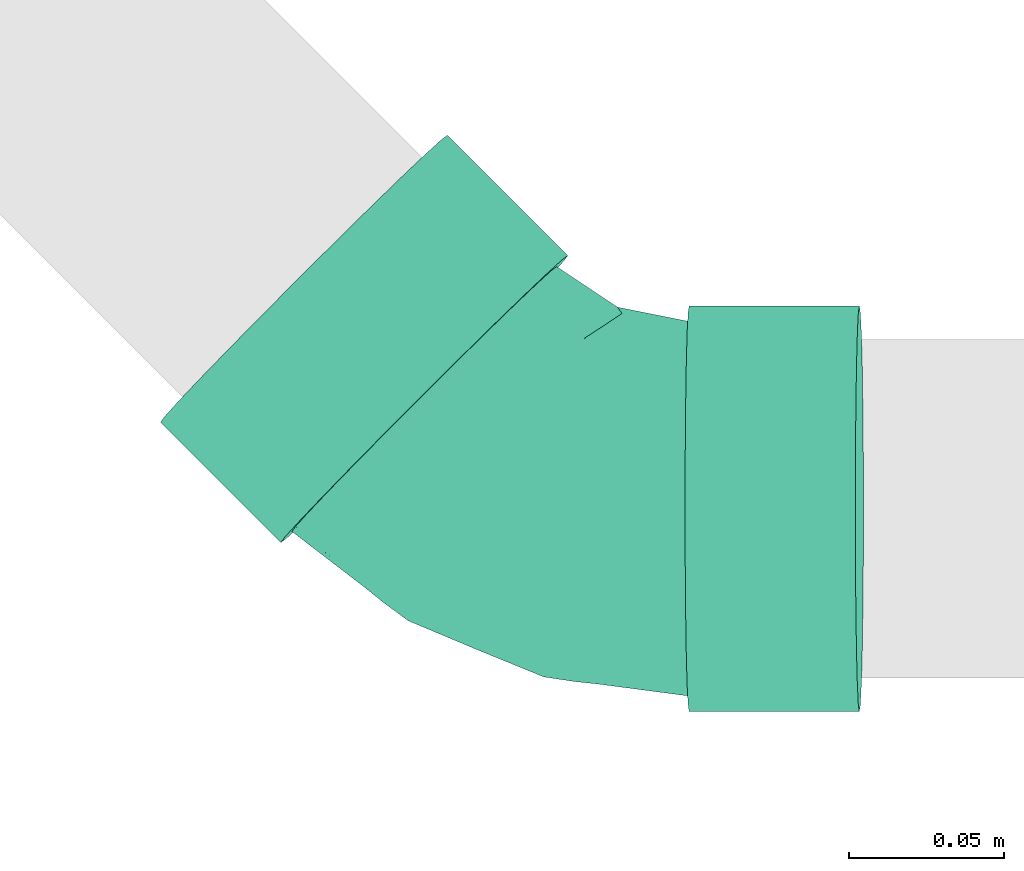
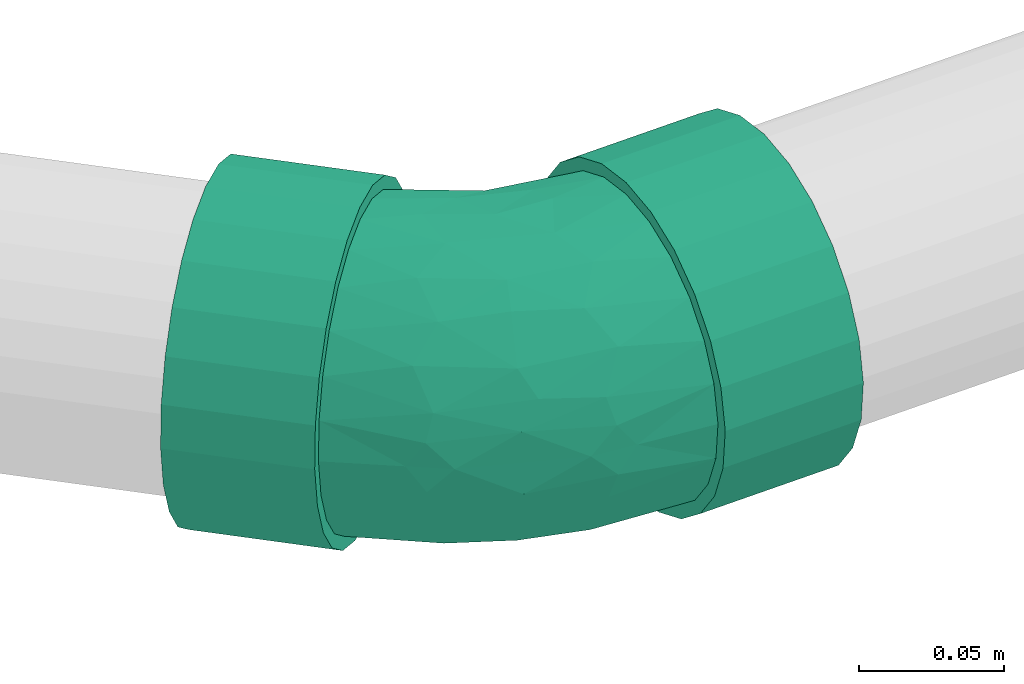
# One storey, part 60 of 83: 1 flow fitting.
"""IFC2X3 building model written with IfcOpenShell, lengths in millimetres."""

from ifc_helpers import new_model, entity, si_unit, converted_unit, derived_unit, direction, frame, origin_with_axes, place, context, subcontext, project, spatial, open_shell, surface_model, source, transform, mapped, type_object, element, save


model = new_model("IFC2X3")

# Units and contexts
model_context = context("Model", 3, precision=0.01, world=frame((0.0, 4.29681676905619e-09, 0.0)), true_north=direction((4.01073788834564e-13, 1.0)))
plan_context = context("Plan", 3, precision=0.01, world=frame((0.0, 4.29681676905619e-09, 0.0)), true_north=direction((4.01073788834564e-13, 1.0)))
body_context = subcontext(model_context, "Body", "Model", "MODEL_VIEW")
ifc_project = project(units=[converted_unit("PLANEANGLEUNIT", "DEGREE", entity("IfcPositiveLengthMeasure", 0.0174532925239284), si_unit("PLANEANGLEUNIT", "RADIAN"), dimensions=[0, 0, 0, 0, 0, 0, 0]), si_unit("AREAUNIT", "SQUARE_METRE"), si_unit("LENGTHUNIT", "METRE", prefix="MILLI"), si_unit("MASSUNIT", "GRAM", prefix="KILO"), si_unit("POWERUNIT", "WATT"), si_unit("PRESSUREUNIT", "PASCAL"), si_unit("FORCEUNIT", "NEWTON", prefix="KILO"), si_unit("ELECTRICVOLTAGEUNIT", "VOLT"), si_unit("ELECTRICCURRENTUNIT", "AMPERE"), si_unit("THERMODYNAMICTEMPERATUREUNIT", "DEGREE_CELSIUS"), si_unit("TIMEUNIT", "SECOND"), si_unit("VOLUMEUNIT", "CUBIC_METRE"), derived_unit("LINEARVELOCITYUNIT", [(si_unit("LENGTHUNIT", "METRE"), 1), (si_unit("TIMEUNIT", "SECOND"), -1)]), derived_unit("VOLUMETRICFLOWRATEUNIT", [(si_unit("VOLUMEUNIT", "CUBIC_METRE"), 1), (si_unit("TIMEUNIT", "SECOND"), -1)]), derived_unit("THERMALTRANSMITTANCEUNIT", [(si_unit("POWERUNIT", "WATT"), 1), (si_unit("THERMODYNAMICTEMPERATUREUNIT", "KELVIN"), -1), (si_unit("AREAUNIT", "SQUARE_METRE"), -1)]), derived_unit("SOUNDPRESSUREUNIT", [(si_unit("PRESSUREUNIT", "PASCAL"), 1)])], contexts=[model_context, plan_context])

# Site, building, storey
site_placement = place(None, frame((0.0, -4.29681676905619e-09, 0.0), z_axis=(0.0, 0.0, 1.0), x_axis=(1.0, 0.0, 0.0)))
site = spatial("IfcSite", under=ifc_project, at=site_placement, Name="ENGM", CompositionType="ELEMENT")
building_placement = place(site_placement, frame((0.0, 4.29681676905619e-09, 0.0), z_axis=(0.0, 0.0, 1.0), x_axis=(1.0, 0.0, 0.0)))
building = spatial("IfcBuilding", under=site, at=building_placement, Name="TI", CompositionType="ELEMENT")
storey_placement = place(building_placement, frame((0.0, 0.0, 204000.0), z_axis=(0.0, 0.0, 1.0), x_axis=(1.0, 0.0, 0.0)))
storey = spatial("IfcBuildingStorey", under=building, at=storey_placement, Name="Nivå D", CompositionType="ELEMENT", Elevation=204000.0)

# Flow fitting
pipe_fitting_type = type_object("IfcPipeFittingType", Name="magi_sewer_bend_001", PredefinedType="BEND")
shared_shape = source(origin_with_axes(), body_context, "Body", "SurfaceModel", [
    surface_model("IfcShellBasedSurfaceModel", [(-105.1081, -16.95265, -63.26814), (-105.1081, -32.75, -56.72466), (-105.1081, -46.3155, -46.3155), (-105.1081, -63.26814, -16.95265), (-105.1081, 56.72466, -32.75), (-105.1081, -56.72466, -32.75), (-105.1081, -65.5, 0.0), (-105.1081, 16.95265, -63.26814), (-105.1081, 0.0, -65.5), (-105.1081, 32.75, -56.72466), (-105.1081, 46.3155, -46.3155), (-105.1081, 63.26814, -16.95265), (-105.1081, -63.26814, 16.95265), (-105.1081, -56.72466, 32.75), (-105.1081, -46.3155, 46.3155), (-105.1081, 63.26814, 16.95265), (-105.1081, -16.95265, 63.26814), (-105.1081, 0.0, 65.5), (-105.1081, -32.75, 56.72466), (-105.1081, 46.3155, 46.3155), (-105.1081, 56.72466, 32.75), (-105.1081, 65.5, 0.0), (-105.1081, 16.95265, 63.26814), (-105.1081, 32.75, 56.72466), (-50.1081, -16.95265, 63.26814), (-50.1081, 16.95265, 63.26814), (-50.1081, 0.0, 65.5), (-50.1081, -46.3155, 46.3155), (-50.1081, -32.75, 56.72466), (-50.1081, -56.72466, 32.75), (-50.1081, -63.26814, 16.95265), (-50.1081, 46.3155, 46.3155), (-50.1081, 32.75, 56.72466), (-50.1081, 63.26814, 16.95265), (-50.1081, 56.72466, 32.75), (-50.1081, 63.26814, -16.95265), (-50.1081, 65.5, 0.0), (-50.1081, -63.26814, -16.95265), (-50.1081, 32.75, -56.72466), (-50.1081, -65.5, 0.0), (-50.1081, -16.95265, -63.26814), (-50.1081, -56.72466, -32.75), (-50.1081, -46.3155, -46.3155), (-50.1081, -32.75, -56.72466), (-50.1081, 0.0, -65.5), (-50.1081, 46.3155, -46.3155), (-50.1081, 56.72466, -32.75), (-50.1081, 16.95265, -63.26814), (29.60504, 119.05508, 16.95265), (34.23121, 114.42738, 32.75), (41.59038, 107.06577, 46.3155), (51.18105, 97.47192, 56.72466), (86.3203, 62.32102, -63.26814), (34.23121, 114.42738, -32.75), (62.34961, 86.29966, 63.26814), (86.3203, 62.32102, 63.26814), (28.02714, 120.63351, 0.0), (29.60504, 119.05508, -16.95265), (51.18105, 97.47192, -56.72466), (41.59038, 107.06577, -46.3155), (74.33496, 74.31034, -65.5), (62.34961, 86.29966, -63.26814), (74.33496, 74.31034, 65.5), (97.48887, 51.14876, 56.72466), (107.07954, 41.55492, 46.3155), (120.64278, 27.98717, 0.0), (114.43871, 34.1933, 32.75), (119.06488, 29.5656, 16.95265), (107.07954, 41.55492, -46.3155), (97.48887, 51.14876, -56.72466), (114.43871, 34.1933, -32.75), (119.06488, 29.5656, -16.95265), (81.74546, -10.89726, 0.0), (80.16757, -9.31883, 16.95265), (75.5414, -4.69113, 32.75), (68.18222, 2.67049, 46.3155), (58.59156, 12.26433, 56.72466), (47.42299, 23.43659, 63.26814), (75.5414, -4.69113, -32.75), (23.4523, 47.41522, 63.26814), (47.42299, 23.43659, -63.26814), (68.18222, 2.67049, -46.3155), (80.16757, -9.31883, -16.95265), (58.59156, 12.26433, -56.72466), (35.43765, 35.42591, -65.5), (12.28374, 58.58749, 56.72466), (12.28374, 58.58749, -56.72466), (2.69307, 68.18134, 46.3155), (-4.6661, 75.54295, 32.75), (-9.29227, 80.17065, 16.95265), (-4.6661, 75.54295, -32.75), (2.69307, 68.18134, -46.3155), (23.4523, 47.41522, -63.26814), (-9.29227, 80.17065, -16.95265), (-10.87018, 81.74907, 0.0), (35.43765, 35.42591, 65.5), (-50.1081, 15.65855, -58.43851), (-50.1081, 0.0, -60.5), (-50.1081, 58.43851, -15.65855), (-50.1081, 30.25, -52.39454), (-50.1081, 52.39454, -30.25), (-50.1081, 42.77996, -42.77996), (-50.1081, -58.43851, -15.65855), (-50.1081, -42.77996, -42.77996), (-50.1081, -30.25, -52.39454), (-50.1081, -15.65855, -58.43851), (-50.1081, -52.39454, -30.25), (-50.1081, -60.5, 0.0), (-50.1081, -58.43851, 15.65855), (-50.1081, 58.43851, 15.65855), (-50.1081, -52.39454, 30.25), (-50.1081, 52.39454, 30.25), (-50.1081, 42.77996, 42.77996), (-50.1081, 30.25, 52.39454), (-50.1081, -42.77996, 42.77996), (-50.1081, 15.65855, 58.43851), (-50.1081, 0.0, 60.5), (-50.1081, -15.65855, 58.43851), (-50.1081, -30.25, 52.39454), (-50.1081, 60.5, 0.0), (-5.87778, 76.75502, -15.65855), (35.43765, 35.42591, -60.5), (24.36721, 46.50001, -58.43851), (14.05121, 56.81943, -52.39454), (5.19266, 65.68092, -42.77996), (-1.60475, 72.48058, -30.25), (78.21052, -7.36114, 0.0), (56.82408, 14.03239, -52.39454), (76.75307, -5.9032, -15.65855), (65.68264, 5.1709, -42.77996), (46.50808, 24.35181, -58.43851), (72.48004, -1.62876, -30.25), (-1.60475, 72.48058, 30.25), (-7.33523, 78.21296, 0.0), (-5.87778, 76.75502, 15.65855), (14.05121, 56.81943, 52.39454), (72.48004, -1.62876, 30.25), (5.19266, 65.68092, 42.77996), (35.43765, 35.42591, 60.5), (24.36721, 46.50001, 58.43851), (65.68264, 5.1709, 42.77996), (76.75307, -5.9032, 15.65855), (46.50808, 24.35181, 58.43851), (56.82408, 14.03239, 52.39454), (15.40727, -37.20516, 33.71616), (-13.37763, -34.19376, 46.68461), (-19.52539, -46.27097, 35.42542), (-20.20232, -56.56367, 0.0), (-3.14212, -54.31813, 0.0), (-12.90624, -55.73838, 10.33181), (46.52192, -18.91968, 35.42542), (-23.96734, -22.18542, 55.29418), (6.21198, -15.00057, 54.53221), (1.7999, 36.36757, 56.46783), (10.93464, 28.63174, 59.6196), (-18.04815, -5.82533, 59.69858), (-5.75196, 13.88971, 60.2873), (-30.30698, 8.38321, 60.13278), (-17.1803, 41.48663, 49.39195), (-26.66913, 50.73825, 38.17926), (32.63514, 1.2546, 55.29418), (-23.23617, 25.17565, 56.5588), (23.34094, -39.60417, 23.84545), (-10.84174, -52.34265, 21.01086), (18.78146, -45.35308, 13.15226), (-24.9167, 60.16833, 24.8553), (48.53406, -30.29493, 10.33181), (54.2775, -25.72035, 0.0), (-24.22946, 64.82374, 12.71138), (44.67325, -29.35298, 21.01085), (16.88253, 8.64005, 59.69858), (33.63561, -14.7248, 46.68461), (-26.96038, 65.10337, 0.0), (10.15312, -24.51753, 48.24811), (18.74121, -45.25588, 0.0), (40.62454, -36.19363, 0.0), (-18.04815, -5.82533, -59.69858), (-12.90624, -55.73838, -10.33181), (18.78146, -45.35308, -13.15226), (16.88253, 8.64005, -59.69858), (-26.98443, 24.44751, -56.46783), (-27.97558, 12.51837, -59.6196), (-17.01038, 54.7381, -38.17926), (33.63561, -14.7248, -46.68461), (-24.9167, 60.16833, -24.8553), (44.67325, -29.35298, -21.01085), (-28.69406, 62.97487, -12.71138), (-1.36575, 34.23256, -56.5588), (-10.84174, -52.34265, -21.01085), (-17.1803, 41.48663, -49.39196), (-19.52539, -46.27097, -35.42542), (-13.37763, -34.19376, -46.68461), (10.15312, -24.51753, -48.24811), (15.40727, -37.20516, -33.71616), (-23.96734, -22.18542, -55.29418), (32.63514, 1.2546, -55.29418), (6.21198, -15.00057, -54.53221), (48.53406, -30.29493, -10.33181), (15.50697, 27.35553, -60.13278), (11.49247, -44.51083, -23.84545), (46.52192, -18.91968, -35.42542), (-5.75196, 13.88971, -60.2873)], [open_shell([[[0, 1, 2]], [[0, 2, 3]], [[0, 3, 4]], [[3, 2, 5]], [[4, 3, 6]], [[0, 7, 8]], [[0, 9, 7]], [[10, 9, 0]], [[0, 4, 10]], [[6, 11, 4]], [[6, 12, 11]], [[12, 13, 14]], [[11, 14, 15]], [[16, 17, 14]], [[16, 14, 18]], [[15, 14, 17]], [[15, 19, 20]], [[21, 11, 15]], [[19, 22, 23]], [[22, 19, 15]], [[17, 22, 15]], [[11, 12, 14]], [[24, 25, 26]], [[27, 24, 28]], [[27, 29, 30]], [[24, 27, 25]], [[30, 25, 27]], [[25, 31, 32]], [[31, 25, 33]], [[31, 33, 34]], [[25, 30, 33]], [[33, 35, 36]], [[33, 30, 35]], [[37, 38, 39]], [[40, 37, 41]], [[42, 43, 40]], [[42, 40, 41]], [[44, 37, 40]], [[39, 45, 46]], [[46, 35, 39]], [[38, 44, 47]], [[38, 45, 39]], [[38, 37, 44]], [[39, 35, 30]], [[35, 11, 36]], [[46, 4, 35]], [[47, 44, 7]], [[45, 10, 46]], [[35, 4, 11]], [[11, 21, 36]], [[9, 38, 7]], [[9, 10, 45]], [[38, 47, 7]], [[10, 4, 46]], [[45, 38, 9]], [[44, 8, 7]], [[0, 40, 43]], [[42, 1, 43]], [[5, 41, 37]], [[42, 41, 2]], [[3, 37, 39]], [[40, 0, 8]], [[43, 1, 0]], [[42, 2, 1]], [[41, 5, 2]], [[3, 5, 37]], [[39, 6, 3]], [[40, 8, 44]], [[30, 12, 39]], [[29, 13, 30]], [[28, 18, 27]], [[27, 14, 29]], [[30, 13, 12]], [[12, 6, 39]], [[17, 16, 24]], [[16, 18, 28]], [[14, 27, 18]], [[14, 13, 29]], [[24, 16, 28]], [[24, 26, 17]], [[22, 25, 32]], [[31, 23, 32]], [[20, 34, 33]], [[31, 34, 19]], [[15, 33, 36]], [[25, 22, 17]], [[32, 23, 22]], [[31, 19, 23]], [[34, 20, 19]], [[15, 20, 33]], [[36, 21, 15]], [[25, 17, 26]], [[48, 49, 50]], [[48, 50, 51]], [[52, 53, 48]], [[54, 48, 51]], [[48, 54, 55]], [[56, 53, 57]], [[56, 48, 53]], [[53, 58, 59]], [[58, 53, 52]], [[60, 61, 58]], [[54, 62, 55]], [[55, 63, 64]], [[55, 64, 65]], [[66, 67, 65]], [[66, 65, 64]], [[55, 65, 52]], [[52, 68, 69]], [[60, 58, 52]], [[52, 70, 68]], [[52, 65, 70]], [[71, 70, 65]], [[52, 48, 55]], [[72, 73, 74]], [[72, 74, 75]], [[75, 76, 77]], [[72, 75, 78]], [[79, 80, 75]], [[78, 80, 81]], [[78, 82, 72]], [[81, 80, 83]], [[78, 75, 80]], [[79, 84, 80]], [[79, 75, 77]], [[84, 79, 85]], [[84, 85, 86]], [[87, 88, 89]], [[85, 87, 86]], [[87, 89, 86]], [[86, 90, 91]], [[92, 84, 86]], [[89, 93, 90]], [[90, 86, 89]], [[93, 89, 94]], [[79, 77, 95]], [[92, 61, 84]], [[86, 58, 92]], [[93, 94, 57]], [[91, 59, 86]], [[92, 58, 61]], [[61, 60, 84]], [[53, 90, 57]], [[53, 59, 91]], [[90, 93, 57]], [[59, 58, 86]], [[91, 90, 53]], [[94, 56, 57]], [[48, 89, 88]], [[87, 49, 88]], [[51, 85, 79]], [[87, 85, 50]], [[54, 79, 95]], [[89, 48, 56]], [[88, 49, 48]], [[87, 50, 49]], [[85, 51, 50]], [[54, 51, 79]], [[95, 62, 54]], [[89, 56, 94]], [[77, 55, 95]], [[76, 63, 77]], [[74, 66, 75]], [[75, 64, 76]], [[77, 63, 55]], [[55, 62, 95]], [[65, 67, 73]], [[67, 66, 74]], [[64, 75, 66]], [[64, 63, 76]], [[73, 67, 74]], [[73, 72, 65]], [[71, 82, 78]], [[81, 70, 78]], [[69, 83, 80]], [[81, 83, 68]], [[52, 80, 84]], [[82, 71, 65]], [[78, 70, 71]], [[81, 68, 70]], [[83, 69, 68]], [[52, 69, 80]], [[84, 60, 52]], [[82, 65, 72]], [[96, 97, 98]], [[99, 96, 98]], [[98, 100, 101]], [[99, 98, 101]], [[102, 98, 97]], [[103, 102, 104]], [[105, 104, 102]], [[106, 102, 103]], [[102, 97, 105]], [[107, 108, 102]], [[109, 98, 102]], [[109, 102, 110]], [[111, 109, 112]], [[113, 109, 114]], [[112, 109, 113]], [[115, 113, 116]], [[110, 114, 109]], [[110, 102, 108]], [[117, 116, 118]], [[114, 118, 116]], [[113, 114, 116]], [[109, 119, 98]], [[120, 121, 122]], [[120, 122, 123]], [[124, 125, 120]], [[124, 120, 123]], [[121, 120, 126]], [[127, 128, 129]], [[128, 127, 130]], [[129, 128, 131]], [[130, 121, 128]], [[121, 126, 128]], [[120, 132, 126]], [[133, 134, 132]], [[132, 135, 126]], [[135, 136, 126]], [[135, 132, 137]], [[138, 135, 139]], [[135, 140, 136]], [[141, 126, 136]], [[140, 142, 143]], [[142, 140, 138]], [[138, 140, 135]], [[133, 132, 120]], [[144, 145, 146]], [[147, 148, 149]], [[118, 114, 145]], [[136, 140, 150]], [[151, 145, 152]], [[146, 145, 114]], [[139, 153, 154]], [[117, 118, 151]], [[155, 156, 157]], [[116, 117, 155]], [[112, 158, 159]], [[143, 142, 160]], [[157, 115, 116]], [[113, 161, 158]], [[108, 147, 149]], [[135, 137, 158]], [[162, 163, 164]], [[158, 112, 113]], [[114, 110, 146]], [[111, 159, 165]], [[109, 111, 165]], [[141, 166, 167]], [[168, 119, 109]], [[169, 162, 164]], [[163, 149, 164]], [[113, 115, 161]], [[138, 154, 170]], [[140, 143, 171]], [[132, 134, 165]], [[170, 142, 138]], [[144, 146, 163]], [[140, 171, 150]], [[156, 154, 153]], [[171, 143, 160]], [[110, 163, 146]], [[166, 141, 169]], [[144, 150, 171]], [[157, 161, 115]], [[144, 162, 150]], [[109, 165, 168]], [[110, 108, 163]], [[172, 168, 133]], [[145, 173, 152]], [[134, 168, 165]], [[152, 170, 155]], [[132, 165, 159]], [[152, 160, 170]], [[132, 159, 137]], [[156, 155, 170]], [[139, 135, 153]], [[153, 158, 161]], [[151, 155, 117]], [[111, 112, 159]], [[169, 141, 136]], [[169, 136, 150]], [[173, 144, 171]], [[137, 159, 158]], [[158, 153, 135]], [[156, 153, 161]], [[145, 151, 118]], [[155, 151, 152]], [[170, 160, 142]], [[171, 160, 152]], [[108, 107, 147]], [[164, 148, 174]], [[108, 149, 163]], [[148, 164, 149]], [[166, 164, 175]], [[167, 166, 175]], [[167, 126, 141]], [[164, 166, 169]], [[170, 154, 156]], [[138, 139, 154]], [[155, 157, 116]], [[161, 157, 156]], [[144, 173, 145]], [[171, 152, 173]], [[133, 168, 134]], [[168, 172, 119]], [[150, 162, 169]], [[163, 162, 144]], [[175, 164, 174]], [[105, 97, 176]], [[148, 177, 178]], [[121, 130, 179]], [[180, 181, 96]], [[100, 182, 101]], [[127, 129, 183]], [[184, 182, 100]], [[131, 128, 185]], [[98, 186, 184]], [[123, 122, 187]], [[102, 177, 147]], [[99, 180, 96]], [[177, 102, 188]], [[124, 189, 182]], [[188, 106, 190]], [[190, 103, 191]], [[103, 104, 191]], [[192, 193, 191]], [[102, 106, 188]], [[103, 190, 106]], [[194, 104, 105]], [[195, 179, 130]], [[120, 125, 184]], [[196, 194, 176]], [[119, 172, 186]], [[193, 190, 191]], [[133, 120, 186]], [[196, 176, 179]], [[124, 123, 189]], [[184, 100, 98]], [[125, 182, 184]], [[194, 191, 104]], [[187, 189, 123]], [[181, 176, 97]], [[189, 187, 180]], [[101, 189, 99]], [[128, 167, 197]], [[198, 122, 121]], [[195, 130, 127]], [[199, 185, 178]], [[129, 200, 183]], [[196, 195, 183]], [[129, 131, 200]], [[201, 198, 179]], [[200, 193, 183]], [[201, 179, 176]], [[197, 167, 175]], [[198, 187, 122]], [[201, 181, 180]], [[177, 188, 178]], [[193, 199, 190]], [[183, 192, 196]], [[131, 185, 200]], [[120, 184, 186]], [[193, 200, 185]], [[125, 124, 182]], [[101, 182, 189]], [[189, 180, 99]], [[201, 180, 187]], [[176, 194, 105]], [[191, 194, 196]], [[183, 195, 127]], [[179, 195, 196]], [[147, 177, 148]], [[147, 107, 102]], [[199, 178, 188]], [[197, 178, 185]], [[178, 175, 174]], [[128, 126, 167]], [[178, 197, 175]], [[128, 197, 185]], [[176, 181, 201]], [[97, 96, 181]], [[179, 198, 121]], [[187, 198, 201]], [[193, 192, 183]], [[191, 196, 192]], [[119, 186, 98]], [[186, 172, 133]], [[190, 199, 188]], [[185, 199, 193]], [[148, 178, 174]]])]),
])
flow_fitting_placement = place(storey_placement, frame((602932.207, 694372.51426, 6111.51951000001), z_axis=(-0.0199979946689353, 0.00827999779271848, 0.999765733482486), x_axis=(0.706965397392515, -0.706965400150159, 0.0199962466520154)))
element("IfcFlowFitting", 1, at=flow_fitting_placement, inside=storey, type_object=pipe_fitting_type, Name="magi_sewer_bend_001", context=body_context, shape_type="MappedRepresentation", body=[
    mapped(shared_shape, transform((0.0, 0.0, 0.0), scale=1.0)),
])

save(model, "model.ifc")
